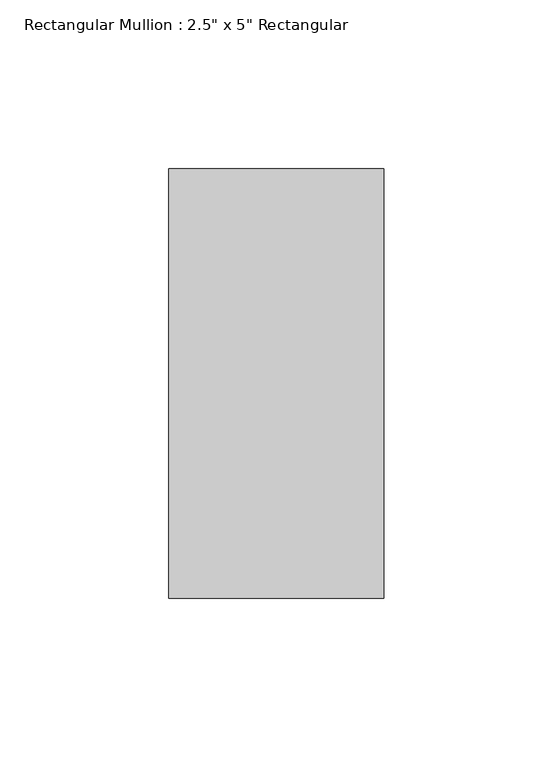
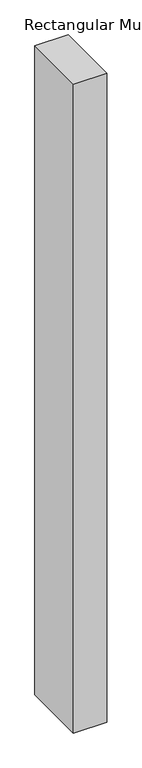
"""IFC4 building model written with IfcOpenShell, lengths in millimetres: member geometry."""

import ifcopenshell
import ifcopenshell.guid

model = None  # the IFC model being written
_history = None  # IfcOwnerHistory: only IFC2X3 demands one
_inside = {}  # id of a spatial element -> (the spatial element, [elements in it])
_under = {}  # id of a project, library or spatial element -> (it, [spatial elements below it])
_declared = {}  # id of a project -> (the project, [libraries it declares])
_typed = {}  # id of a type object -> (the type object, [elements of that type])
_made_of = {}  # id of a material, layer set ... -> (it, [elements and type objects made of it])


def new_model(schema):
    """Start an empty IFC model of exactly this schema.

    Asked for "IFC4X3", IfcOpenShell would pick the latest addendum, in which some entities
    have other attributes; the version numbers below select the first issue.
    IFC2X3 requires an IfcOwnerHistory on every rooted entity: one is made here for all.
    """
    global model, _history
    if schema == "IFC4X3":
        model = ifcopenshell.file(schema_version=(4, 3, 0, 0))
    else:
        model = ifcopenshell.file(schema=schema)
    _inside.clear()
    _under.clear()
    _declared.clear()
    _typed.clear()
    _made_of.clear()
    _history = None
    if model.schema == "IFC2X3":
        org = make("IfcOrganization", Name="unknown")
        user = make(
            "IfcPersonAndOrganization",
            ThePerson=make("IfcPerson", FamilyName="unknown"),
            TheOrganization=org,
        )
        app = make(
            "IfcApplication",
            ApplicationDeveloper=org,
            Version="unknown",
            ApplicationFullName="unknown",
            ApplicationIdentifier="unknown",
        )
        _history = make(
            "IfcOwnerHistory",
            OwningUser=user,
            OwningApplication=app,
            ChangeAction="ADDED",
            CreationDate=0,
        )
    return model


def make(cls, **values):
    """One entity of the class cls with the attributes given. An attribute that is None is left unset."""
    return model.create_entity(
        cls, **{name: value for name, value in values.items() if value is not None}
    )


def rooted(cls, **values):
    """An entity with a GlobalId (a new one), such as an element, a storey or a relation."""
    return make(cls, GlobalId=ifcopenshell.guid.new(), OwnerHistory=_history, **values)


def si_unit(unit_type, name, prefix=None):
    """IfcSIUnit, for example si_unit("LENGTHUNIT", "METRE", prefix="MILLI")."""
    return make("IfcSIUnit", UnitType=unit_type, Prefix=prefix, Name=name)


def assignment(units):
    """IfcUnitAssignment: the units of a project."""
    return None if units is None else make("IfcUnitAssignment", Units=units)


def point(xyz):
    """IfcCartesianPoint."""
    return None if xyz is None else make("IfcCartesianPoint", Coordinates=xyz)


def direction(xyz):
    """IfcDirection."""
    return None if xyz is None else make("IfcDirection", DirectionRatios=xyz)


def frame(location, z_axis=None, x_axis=None):
    """IfcAxis2Placement3D, a coordinate frame: its origin and axes. An axis left out is left unset."""
    return make(
        "IfcAxis2Placement3D",
        Location=point(location),
        Axis=direction(z_axis),
        RefDirection=direction(x_axis),
    )


def origin():
    """The frame at (0, 0, 0) with its axes left unset."""
    return frame((0.0, 0.0, 0.0))


def place(relative_to, where):
    """IfcLocalPlacement: puts the frame where relative to a parent placement (None: the world)."""
    return make(
        "IfcLocalPlacement", PlacementRelTo=relative_to, RelativePlacement=where
    )


def context(
    kind, dimensions, precision=None, world=None, true_north=None, identifier=None
):
    """IfcGeometricRepresentationContext, for example the 3D "Model" context."""
    return make(
        "IfcGeometricRepresentationContext",
        ContextIdentifier=identifier,
        ContextType=kind,
        CoordinateSpaceDimension=dimensions,
        Precision=precision,
        WorldCoordinateSystem=world,
        TrueNorth=true_north,
    )


def project(units=None, contexts=None):
    """IfcProject with its units and contexts."""
    return rooted(
        "IfcProject",
        Name="project",
        RepresentationContexts=contexts,
        UnitsInContext=assignment(units),
    )


def spatial(cls, under=None, at=None, **own):
    """A site, building, storey or space (cls), placed at a placement, below another one or the project."""
    s = rooted(cls, ObjectPlacement=at, **own)
    if under is not None:
        _under.setdefault(under.id(), (under, []))[1].append(s)
    return s


def polyline(points):
    """IfcPolyline through the points."""
    return make("IfcPolyline", Points=[point(p) for p in points])


def outline(outer, holes=None, kind="AREA"):
    """IfcArbitraryClosedProfileDef: a profile drawn as a closed curve; with holes, ...WithVoids."""
    if holes is None:
        return make("IfcArbitraryClosedProfileDef", ProfileType=kind, OuterCurve=outer)
    return make(
        "IfcArbitraryProfileDefWithVoids",
        ProfileType=kind,
        OuterCurve=outer,
        InnerCurves=holes,
    )


def extrude(swept, where, along, depth):
    """IfcExtrudedAreaSolid: the profile swept, set in the frame where, extruded along a direction by depth."""
    return make(
        "IfcExtrudedAreaSolid",
        SweptArea=swept,
        Position=where,
        ExtrudedDirection=direction(along),
        Depth=depth,
    )


def shape(context_of_items, identifier, shape_type, items):
    """IfcShapeRepresentation: the items that make up one representation, for example the "Body"."""
    return make(
        "IfcShapeRepresentation",
        ContextOfItems=context_of_items,
        RepresentationIdentifier=identifier,
        RepresentationType=shape_type,
        Items=items,
    )


def source(mapping_origin, context_of_items, identifier, shape_type, items):
    """IfcRepresentationMap: a shape defined once, which mapped items show again and again."""
    return make(
        "IfcRepresentationMap",
        MappingOrigin=mapping_origin,
        MappedRepresentation=shape(context_of_items, identifier, shape_type, items),
    )


def transform(
    local_origin,
    x_axis=None,
    y_axis=None,
    z_axis=None,
    scale=None,
    scale2=None,
    scale3=None,
    uniform=True,
):
    """IfcCartesianTransformationOperator3D, or its non-uniform kind. x_axis, y_axis, z_axis: its Axis1, 2, 3."""
    if uniform:
        return make(
            "IfcCartesianTransformationOperator3D",
            Axis1=direction(x_axis),
            Axis2=direction(y_axis),
            LocalOrigin=point(local_origin),
            Scale=scale,
            Axis3=direction(z_axis),
        )
    return make(
        "IfcCartesianTransformationOperator3DnonUniform",
        Axis1=direction(x_axis),
        Axis2=direction(y_axis),
        LocalOrigin=point(local_origin),
        Scale=scale,
        Axis3=direction(z_axis),
        Scale2=scale2,
        Scale3=scale3,
    )


def mapped(mapping_source, mapping_target):
    """IfcMappedItem: shows the shape of a source again, moved by a transform."""
    return make(
        "IfcMappedItem", MappingSource=mapping_source, MappingTarget=mapping_target
    )


def made_of(thing, what):
    """Note that an element or type object is made of a material, layer set ...; save() writes the relation."""
    if what is not None:
        _made_of.setdefault(what.id(), (what, []))[1].append(thing)
    return thing


def element(
    cls,
    number,
    at=None,
    inside=None,
    cuts=None,
    type_object=None,
    material=None,
    context=None,
    identifier="Body",
    shape_type=None,
    held_by="IfcProductDefinitionShape",
    body=None,
    shapes=None,
    **own,
):
    """One element of the class cls, such as IfcWall. Its Tag is "e" and its number.

    at: its placement. inside: the storey or other place that contains it. cuts: it is an
    opening in that element (IfcRelVoidsElement). A single representation is given by context,
    identifier, shape_type and body (its items); several are given by shapes. held_by: the class
    of the entity that holds the representations. save() writes the other relations.
    """
    e = rooted(cls, Tag="e%d" % number, ObjectPlacement=at, **own)
    if body is not None:
        shapes = [shape(context, identifier, shape_type, body)]
    if shapes is not None:
        e.Representation = make(held_by, Representations=shapes)
    if inside is not None:
        _inside.setdefault(inside.id(), (inside, []))[1].append(e)
    if cuts is not None:
        rooted(
            "IfcRelVoidsElement", RelatingBuildingElement=cuts, RelatedOpeningElement=e
        )
    if type_object is not None:
        _typed.setdefault(type_object.id(), (type_object, []))[1].append(e)
    return made_of(e, material)


def aggregate(whole, parts):
    """IfcRelAggregates: a whole, such as a stair, and the parts it consists of."""
    return rooted("IfcRelAggregates", RelatingObject=whole, RelatedObjects=parts)


def save(model, path):
    """Write the relations noted so far, then the file.

    IfcRelAggregates (storeys below a building ...), IfcRelContainedInSpatialStructure (elements
    in a storey), IfcRelDefinesByType, IfcRelAssociatesMaterial and IfcRelDeclares: one each for
    every whole, place, type object, material and project.
    """
    for whole, parts in _under.values():
        aggregate(whole, parts)
    for where, things in _inside.values():
        rooted(
            "IfcRelContainedInSpatialStructure",
            RelatedElements=things,
            RelatingStructure=where,
        )
    for kind, things in _typed.values():
        rooted("IfcRelDefinesByType", RelatedObjects=things, RelatingType=kind)
    for what, things in _made_of.values():
        rooted("IfcRelAssociatesMaterial", RelatedObjects=things, RelatingMaterial=what)
    for by, libraries in _declared.values():
        rooted("IfcRelDeclares", RelatingContext=by, RelatedDefinitions=libraries)
    model.write(path)


def member_1988fdfd(model_context):
    return source(origin(), model_context, "Body", "SweptSolid", [
        extrude(outline(polyline([(31.75, 63.5), (31.75, -63.5), (-31.75, -63.5), (-31.75, 63.5), (31.75, 63.5)])), frame((0.0, 0.0, -1308.1), z_axis=(0.0, 0.0, 1.0), x_axis=(1.0, 0.0, 0.0)), (0.0, 0.0, 1.0), 1308.1),
    ])


if __name__ == "__main__":
    model = new_model("IFC4")
    model_context = context("Model", 3, world=origin())
    ifc_project = project(units=[si_unit("LENGTHUNIT", "METRE", prefix="MILLI")], contexts=[model_context])
    site = spatial("IfcSite", under=ifc_project)
    building = spatial("IfcBuilding", under=site)
    placement = place(None, origin())
    member_shape = member_1988fdfd(model_context)
    element("IfcMember", 1, ObjectType="Rectangular Mullion : 2.5\" x 5\" Rectangular", at=placement, inside=building, context=model_context, shape_type="MappedRepresentation", body=[
        mapped(member_shape, transform((0.0, 0.0, 0.0), x_axis=(1.0, 0.0, 0.0), y_axis=(0.0, 1.0, 0.0), z_axis=(0.0, 0.0, 1.0))),
    ])
    save(model, "model.ifc")
